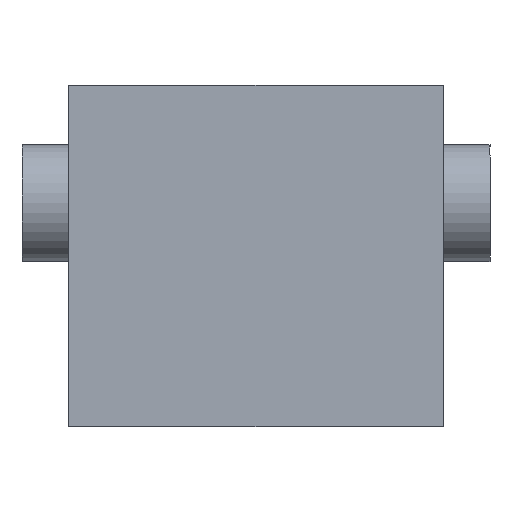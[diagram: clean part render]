
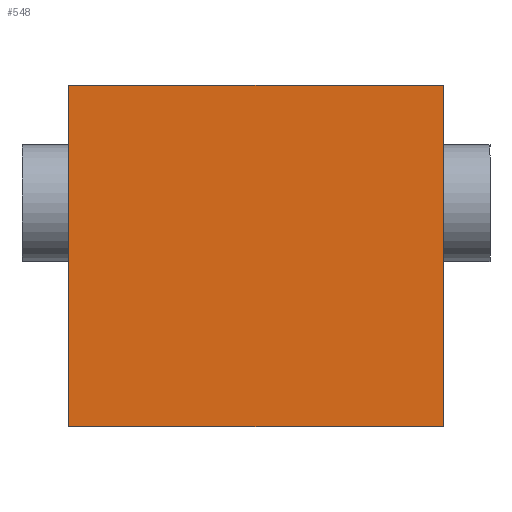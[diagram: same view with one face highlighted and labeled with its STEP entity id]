
A CAD part, front view. The second image highlights one B-rep face of the part: STEP entity #548.
In plain terms, the highlighted planar face has unit normal (0, -1, 0).
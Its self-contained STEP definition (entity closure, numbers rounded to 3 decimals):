
#52=FACE_OUTER_BOUND('',#87,.T.);
#87=EDGE_LOOP('',(#425,#426,#427,#428));
#141=LINE('',#839,#205);
#144=LINE('',#844,#208);
#146=LINE('',#848,#210);
#148=LINE('',#851,#212);
#205=VECTOR('',#681,10.);
#208=VECTOR('',#686,10.);
#210=VECTOR('',#690,10.);
#212=VECTOR('',#694,10.);
#261=VERTEX_POINT('',#837);
#262=VERTEX_POINT('',#838);
#263=VERTEX_POINT('',#843);
#264=VERTEX_POINT('',#847);
#317=EDGE_CURVE('',#261,#262,#141,.T.);
#320=EDGE_CURVE('',#262,#263,#144,.T.);
#322=EDGE_CURVE('',#263,#264,#146,.T.);
#324=EDGE_CURVE('',#264,#261,#148,.T.);
#425=ORIENTED_EDGE('',*,*,#324,.T.);
#426=ORIENTED_EDGE('',*,*,#317,.T.);
#427=ORIENTED_EDGE('',*,*,#320,.T.);
#428=ORIENTED_EDGE('',*,*,#322,.T.);
#519=PLANE('',#602);
#548=ADVANCED_FACE('',(#52),#519,.T.);
#602=AXIS2_PLACEMENT_3D('',#852,#695,#696);
#681=DIRECTION('',(1.,0.,0.));
#686=DIRECTION('',(0.,0.,1.));
#690=DIRECTION('',(-1.,0.,0.));
#694=DIRECTION('',(0.,0.,-1.));
#695=DIRECTION('center_axis',(0.,-1.,0.));
#696=DIRECTION('ref_axis',(0.,0.,-1.));
#837=CARTESIAN_POINT('',(-200.,-200.,-182.5));
#838=CARTESIAN_POINT('',(200.,-200.,-182.5));
#839=CARTESIAN_POINT('',(-200.,-200.,-182.5));
#843=CARTESIAN_POINT('',(200.,-200.,182.5));
#844=CARTESIAN_POINT('',(200.,-200.,-182.5));
#847=CARTESIAN_POINT('',(-200.,-200.,182.5));
#848=CARTESIAN_POINT('',(200.,-200.,182.5));
#851=CARTESIAN_POINT('',(-200.,-200.,182.5));
#852=CARTESIAN_POINT('Origin',(0.,-200.,0.));
